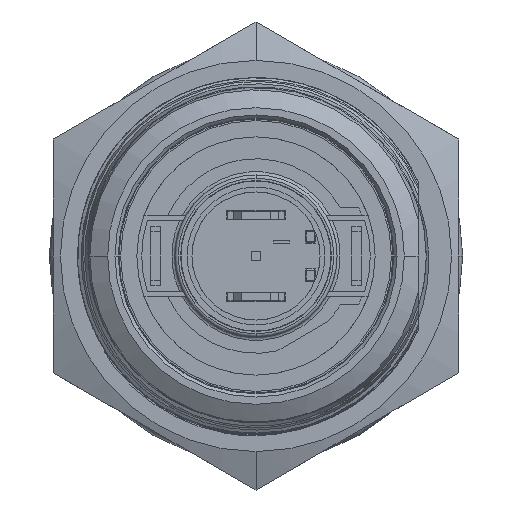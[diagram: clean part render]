
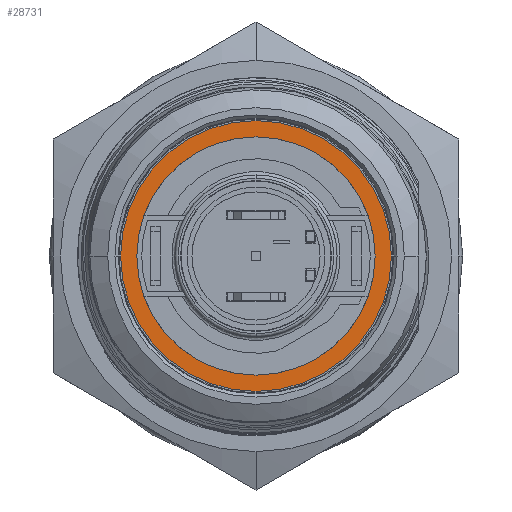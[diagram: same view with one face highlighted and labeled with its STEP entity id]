
A CAD part, front view. The second image highlights one B-rep face of the part: STEP entity #28731.
In plain terms, the highlighted planar face has unit normal (0, -1, 0).
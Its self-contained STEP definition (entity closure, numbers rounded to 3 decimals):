
#9763=CARTESIAN_POINT('',(0.,0.9,0.));
#9764=DIRECTION('',(0.,1.,0.));
#9765=DIRECTION('',(0.,0.,-1.));
#9766=AXIS2_PLACEMENT_3D('',#9763,#9764,#9765);
#9768=CARTESIAN_POINT('',(0.,0.9,0.));
#9769=DIRECTION('',(0.,-1.,0.));
#9770=DIRECTION('',(0.,0.,-1.));
#9771=AXIS2_PLACEMENT_3D('',#9768,#9769,#9770);
#9777=CARTESIAN_POINT('',(0.,0.9,0.));
#9778=DIRECTION('',(0.,-1.,0.));
#9779=DIRECTION('',(0.,0.,-1.));
#9780=AXIS2_PLACEMENT_3D('',#9777,#9778,#9779);
#9894=CARTESIAN_POINT('',(0.,0.9,0.));
#9895=DIRECTION('',(0.,1.,0.));
#9896=DIRECTION('',(0.,0.,-1.));
#9897=AXIS2_PLACEMENT_3D('',#9894,#9895,#9896);
#15784=CARTESIAN_POINT('',(0.,0.9,-8.35));
#15785=CARTESIAN_POINT('',(0.,0.9,8.35));
#15786=VERTEX_POINT('',#15784);
#15787=VERTEX_POINT('',#15785);
#15788=CARTESIAN_POINT('',(0.,0.9,-7.35));
#15789=CARTESIAN_POINT('',(0.,0.9,7.35));
#15790=VERTEX_POINT('',#15788);
#15791=VERTEX_POINT('',#15789);
#28716=CARTESIAN_POINT('',(0.,0.9,0.));
#28717=DIRECTION('',(0.,1.,0.));
#28718=DIRECTION('',(0.,0.,1.));
#28719=AXIS2_PLACEMENT_3D('',#28716,#28717,#28718);
#28720=PLANE('',#28719);
#28721=ORIENTED_EDGE('',*,*,#28696,.T.);
#28722=ORIENTED_EDGE('',*,*,#28710,.F.);
#28723=EDGE_LOOP('',(#28721,#28722));
#28724=FACE_OUTER_BOUND('',#28723,.F.);
#28726=ORIENTED_EDGE('',*,*,#28725,.T.);
#28728=ORIENTED_EDGE('',*,*,#28727,.F.);
#28729=EDGE_LOOP('',(#28726,#28728));
#28730=FACE_BOUND('',#28729,.F.);
#28731=ADVANCED_FACE('',(#28724,#28730),#28720,.F.);
#9767=CIRCLE('',#9766,8.35);
#9772=CIRCLE('',#9771,8.35);
#9781=CIRCLE('',#9780,7.35);
#9898=CIRCLE('',#9897,7.35);
#28696=EDGE_CURVE('',#15786,#15787,#9767,.T.);
#28710=EDGE_CURVE('',#15786,#15787,#9772,.T.);
#28725=EDGE_CURVE('',#15790,#15791,#9781,.T.);
#28727=EDGE_CURVE('',#15790,#15791,#9898,.T.);
